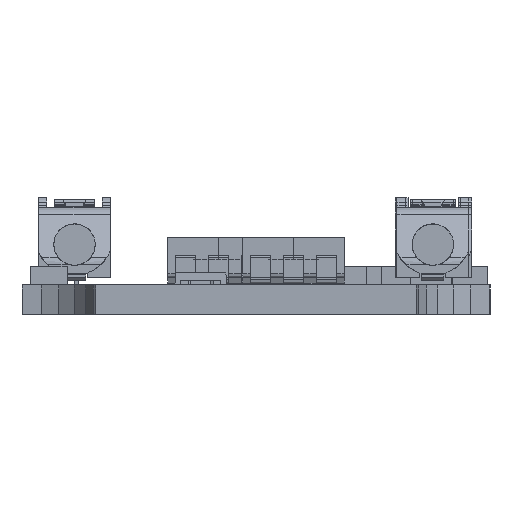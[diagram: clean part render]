
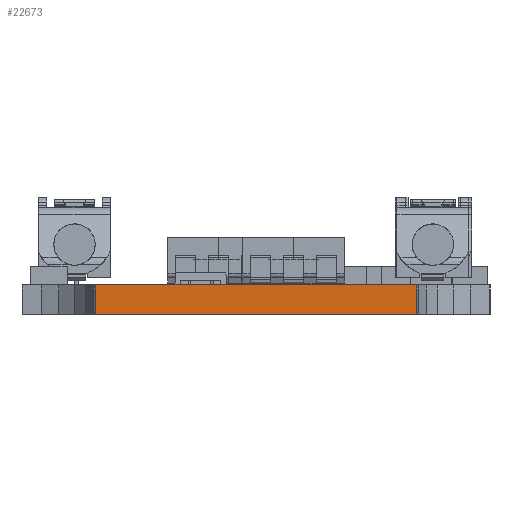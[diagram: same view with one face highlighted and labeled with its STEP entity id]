
A CAD part, left-side view. The second image highlights one B-rep face of the part: STEP entity #22673.
In plain terms, the highlighted planar face has unit normal (-1, 0, 0).
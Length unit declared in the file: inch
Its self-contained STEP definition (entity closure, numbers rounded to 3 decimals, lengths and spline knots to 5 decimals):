
#70 = EDGE_CURVE ( 'NONE', #2558, #12035, #6989, .T. ) ;
#1077 = ORIENTED_EDGE ( 'NONE', *, *, #70, .T. ) ;
#1408 = AXIS2_PLACEMENT_3D ( 'NONE', #22418, #10000, #12201 ) ;
#1530 = VECTOR ( 'NONE', #14125, 39.37008 ) ;
#2558 = VERTEX_POINT ( 'NONE', #6571 ) ;
#2593 = ORIENTED_EDGE ( 'NONE', *, *, #11567, .T. ) ;
#2782 = CARTESIAN_POINT ( 'NONE',  ( -11.00787, 0.34252, 0. ) ) ;
#2916 = CARTESIAN_POINT ( 'NONE',  ( -11.00787, 0.34252, 0. ) ) ;
#3062 = DIRECTION ( 'NONE',  ( 0., 0., 1. ) ) ;
#4956 = DIRECTION ( 'NONE',  ( 0., -1., 0. ) ) ;
#5711 = LINE ( 'NONE', #2782, #14184 ) ;
#6571 = CARTESIAN_POINT ( 'NONE',  ( -11.00787, 0.34252, 0.06299 ) ) ;
#6989 = LINE ( 'NONE', #2916, #16388 ) ;
#7397 = CARTESIAN_POINT ( 'NONE',  ( -11.00787, -0.34252, 0.06299 ) ) ;
#7742 = LINE ( 'NONE', #17671, #13929 ) ;
#7941 = PLANE ( 'NONE',  #1408 ) ;
#9169 = DIRECTION ( 'NONE',  ( 0., 0., -1. ) ) ;
#9292 = ORIENTED_EDGE ( 'NONE', *, *, #12456, .F. ) ;
#10000 = DIRECTION ( 'NONE',  ( -1., 0., 0. ) ) ;
#10172 = FACE_OUTER_BOUND ( 'NONE', #12287, .T. ) ;
#10440 = VERTEX_POINT ( 'NONE', #7397 ) ;
#11567 = EDGE_CURVE ( 'NONE', #20803, #10440, #7742, .T. ) ;
#12035 = VERTEX_POINT ( 'NONE', #23144 ) ;
#12201 = DIRECTION ( 'NONE',  ( 0., 0., 1. ) ) ;
#12287 = EDGE_LOOP ( 'NONE', ( #1077, #21469, #2593, #9292 ) ) ;
#12456 = EDGE_CURVE ( 'NONE', #2558, #10440, #24203, .T. ) ;
#13439 = EDGE_CURVE ( 'NONE', #12035, #20803, #5711, .T. ) ;
#13929 = VECTOR ( 'NONE', #3062, 39.37008 ) ;
#14125 = DIRECTION ( 'NONE',  ( 0., -1., 0. ) ) ;
#14184 = VECTOR ( 'NONE', #4956, 39.37008 ) ;
#16388 = VECTOR ( 'NONE', #9169, 39.37008 ) ;
#16888 = CARTESIAN_POINT ( 'NONE',  ( -11.00787, -0.34252, 0. ) ) ;
#17671 = CARTESIAN_POINT ( 'NONE',  ( -11.00787, -0.34252, 0. ) ) ;
#20803 = VERTEX_POINT ( 'NONE', #16888 ) ;
#21469 = ORIENTED_EDGE ( 'NONE', *, *, #13439, .T. ) ;
#22418 = CARTESIAN_POINT ( 'NONE',  ( -11.00787, 0.34252, 0. ) ) ;
#22673 = ADVANCED_FACE ( 'NONE', ( #10172 ), #7941, .T. ) ;
#23144 = CARTESIAN_POINT ( 'NONE',  ( -11.00787, 0.34252, 0. ) ) ;
#24203 = LINE ( 'NONE', #26741, #1530 ) ;
#26741 = CARTESIAN_POINT ( 'NONE',  ( -11.00787, 0., 0.06299 ) ) ;
